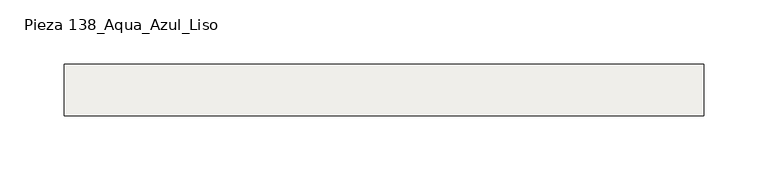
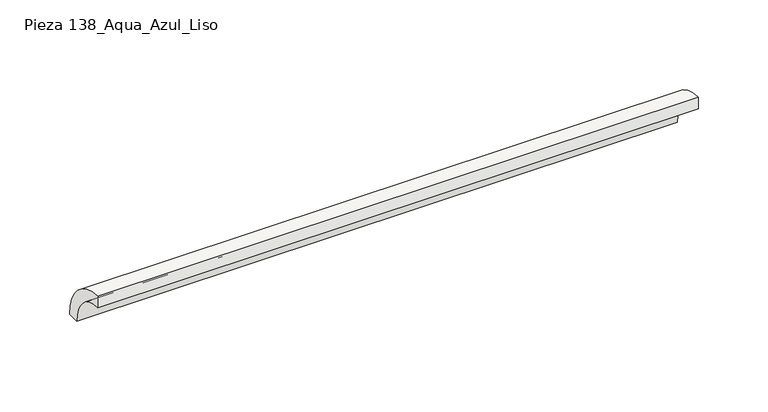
"""IFC4 building model written with IfcOpenShell, lengths in millimetres: slab geometry, ROSA GRES_138 : Pieza 138_Aqua_Azul_Liso."""

from ifc_helpers import new_model, si_unit, point, frame, frame_2d, origin, origin_2d, place, context, project, spatial, polyline, circle_curve, trimmed, segment, composite_curve, outline, extrude, source, transform, mapped, element, save


def pieza_138_aqua_azul_liso_c45b5ecf(model_context):
    return source(origin(), model_context, "Body", "SweptSolid", [
        extrude(outline(composite_curve([segment(trimmed(circle_curve(origin_2d(), 40.0), [point((0.0, 40.0))], [point((40.0, 0.0))], False, "CARTESIAN"), True, "CONTINUOUS"), segment(polyline([(40.0, 0.0), (30.0265886, 0.0)]), True, "CONTINUOUS"), segment(trimmed(circle_curve(frame_2d((0.0044453, 0.0044453)), 30.0221435), [point((30.0265886, 0.0))], [point((0.0, 30.0265886))], True, "CARTESIAN"), True, "CONTINUOUS"), segment(polyline([(0.0, 30.0265886), (0.0, 40.0)]), True, "CONTINUOUS")], self_intersect=False)), frame((0.0, 0.0, 0.0), z_axis=(1.0, 0.0, 0.0), x_axis=(0.0, 1.0, 0.0)), (0.0, 0.0, 1.0), 497.4262473),
    ])


if __name__ == "__main__":
    model = new_model("IFC4")
    model_context = context("Model", 3, world=origin())
    ifc_project = project(units=[si_unit("LENGTHUNIT", "METRE", prefix="MILLI")], contexts=[model_context])
    site = spatial("IfcSite", under=ifc_project)
    building = spatial("IfcBuilding", under=site)
    placement = place(None, origin())
    pieza_138_aqua_azul_liso_shape = pieza_138_aqua_azul_liso_c45b5ecf(model_context)
    element("IfcSlab", 1, ObjectType="ROSA GRES_138 : Pieza 138_Aqua_Azul_Liso", at=placement, inside=building, context=model_context, shape_type="MappedRepresentation", body=[
        mapped(pieza_138_aqua_azul_liso_shape, transform((0.0, 0.0, 0.0), x_axis=(1.0, 0.0, 0.0), y_axis=(0.0, 1.0, 0.0), z_axis=(0.0, 0.0, 1.0))),
    ])
    save(model, "model.ifc")
